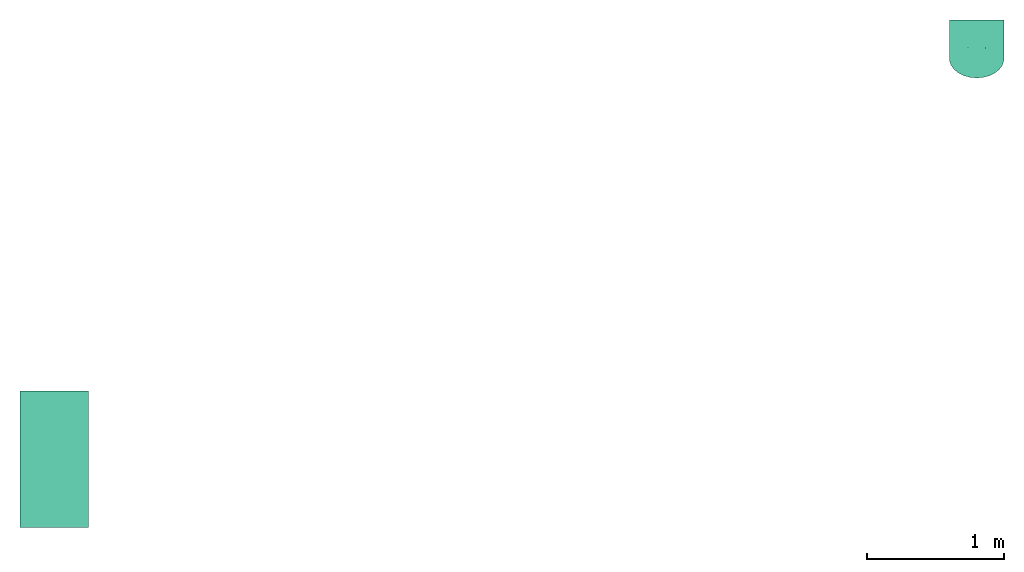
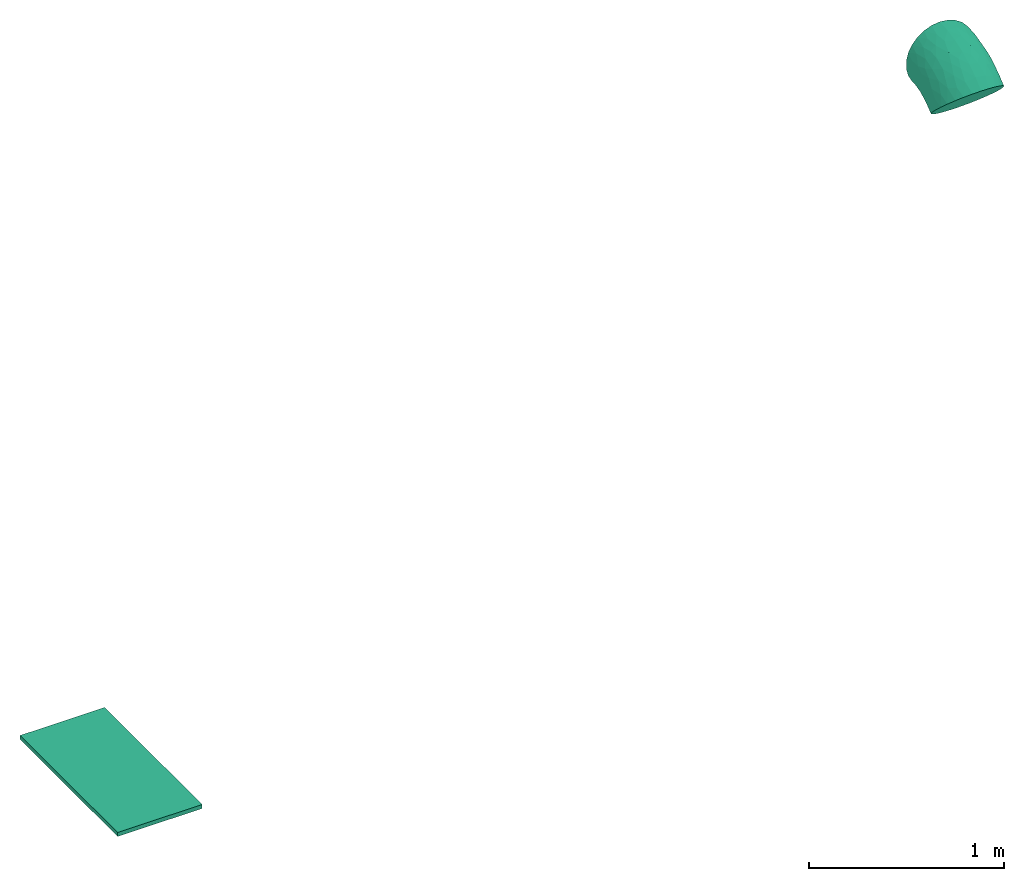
# One storey: 2 flow fittings.
"""IFC2X3 building model written with IfcOpenShell, lengths in millimetres."""

from ifc_helpers import new_model, entity, si_unit, converted_unit, derived_unit, direction, frame, origin_with_axes, place, context, subcontext, project, spatial, open_shell, surface_model, source, transform, mapped, type_object, element, save


model = new_model("IFC2X3")

# Units and contexts
model_context = context("Model", 3, precision=0.01, world=frame((0.0, 4.29681676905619e-09, 0.0)), true_north=direction((4.01073788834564e-13, 1.0)))
plan_context = context("Plan", 3, precision=0.01, world=frame((0.0, 4.29681676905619e-09, 0.0)), true_north=direction((4.01073788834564e-13, 1.0)))
body_context = subcontext(model_context, "Body", "Model", "MODEL_VIEW")
ifc_project = project(units=[converted_unit("PLANEANGLEUNIT", "DEGREE", entity("IfcPositiveLengthMeasure", 0.0174532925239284), si_unit("PLANEANGLEUNIT", "RADIAN"), dimensions=[0, 0, 0, 0, 0, 0, 0]), si_unit("AREAUNIT", "SQUARE_METRE"), si_unit("LENGTHUNIT", "METRE", prefix="MILLI"), si_unit("MASSUNIT", "GRAM", prefix="KILO"), si_unit("POWERUNIT", "WATT"), si_unit("PRESSUREUNIT", "PASCAL", prefix="KILO"), si_unit("FORCEUNIT", "NEWTON", prefix="KILO"), si_unit("ELECTRICVOLTAGEUNIT", "VOLT"), si_unit("ELECTRICCURRENTUNIT", "AMPERE"), si_unit("THERMODYNAMICTEMPERATUREUNIT", "DEGREE_CELSIUS"), si_unit("TIMEUNIT", "SECOND"), si_unit("VOLUMEUNIT", "CUBIC_METRE"), derived_unit("LINEARVELOCITYUNIT", [(si_unit("LENGTHUNIT", "METRE"), 1), (si_unit("TIMEUNIT", "SECOND"), -1)]), derived_unit("VOLUMETRICFLOWRATEUNIT", [(si_unit("VOLUMEUNIT", "CUBIC_METRE"), 1), (si_unit("TIMEUNIT", "SECOND"), -1)]), derived_unit("THERMALTRANSMITTANCEUNIT", [(si_unit("POWERUNIT", "WATT"), 1), (si_unit("THERMODYNAMICTEMPERATUREUNIT", "KELVIN"), -1), (si_unit("AREAUNIT", "SQUARE_METRE"), -1)]), derived_unit("SOUNDPRESSUREUNIT", [(si_unit("PRESSUREUNIT", "PASCAL"), 1)])], contexts=[model_context, plan_context])

# Site, building, storey
site_placement = place(None, frame((0.0, -4.29681676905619e-09, 0.0), z_axis=(0.0, 0.0, 1.0), x_axis=(1.0, 0.0, 0.0)))
site = spatial("IfcSite", under=ifc_project, at=site_placement, CompositionType="ELEMENT")
building_placement = place(site_placement, frame((0.0, 4.29681676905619e-09, 0.0), z_axis=(0.0, 0.0, 1.0), x_axis=(1.0, 0.0, 0.0)))
building = spatial("IfcBuilding", under=site, at=building_placement, Name="mc-building", CompositionType="ELEMENT")
storey_placement = place(building_placement, frame((0.0, 0.0, 200300.0), z_axis=(0.0, 0.0, 1.0), x_axis=(1.0, 0.0, 0.0)))
storey = spatial("IfcBuildingStorey", under=building, at=storey_placement, Name="Nivå C", CompositionType="ELEMENT", Elevation=200300.0)

# Flow fittings
duct_fitting_type_1 = type_object("IfcDuctFittingType", Name="magicirc_elbow_full_radius_001", PredefinedType="BEND")
shared_shape_1 = source(origin_with_axes(), body_context, "Body", "SurfaceModel", [
    surface_model("IfcShellBasedSurfaceModel", [(-165.68542, 113.61295, -164.59677), (-165.68542, 70.92098, -187.00325), (-165.68542, 24.10734, -198.54177), (-165.68542, -70.92098, -187.00325), (-165.68542, 194.18836, -47.86313), (-165.68542, 177.09121, -92.94464), (-165.68542, 149.70215, -132.62454), (-165.68542, -113.61295, 164.59677), (-165.68542, -113.61295, -164.59677), (-165.68542, -177.09121, -92.94464), (-165.68542, -24.10734, -198.54177), (-165.68542, -149.70215, -132.62454), (-165.68542, -194.18836, -47.86313), (-165.68542, -200.0, 0.0), (-165.68542, -149.70215, 132.62454), (-165.68542, 200.0, 0.0), (-165.68542, 177.09121, 92.94464), (-165.68542, 194.18836, 47.86313), (-165.68542, 149.70215, 132.62454), (-165.68542, 70.92098, 187.00325), (-165.68542, 113.61295, 164.59677), (-165.68542, -177.09121, 92.94464), (-165.68542, -194.18836, 47.86313), (-165.68542, -70.92098, 187.00325), (-165.68542, -24.10734, 198.54177), (-165.68542, 24.10734, 198.54177), (100.11082, 134.20375, -198.54177), (67.00858, 167.30599, -187.00325), (36.8208, 197.49378, -164.59677), (167.30599, 67.00858, -187.00325), (11.30188, 223.0127, -132.62454), (-8.0651, 242.37968, -92.94464), (-20.15462, 254.46919, -47.86313), (-8.0651, 242.37968, 92.94464), (242.37968, -8.0651, -92.94464), (197.49378, 36.8208, -164.59677), (134.20375, 100.11082, -198.54177), (223.0127, 11.30188, -132.62454), (254.46919, -20.15462, -47.86313), (242.37968, -8.0651, 92.94464), (258.57864, -24.26407, 0.0), (-24.26407, 258.57864, 0.0), (-20.15462, 254.46919, 47.86313), (223.0127, 11.30188, 132.62454), (11.30188, 223.0127, 132.62454), (36.8208, 197.49378, 164.59677), (67.00858, 167.30599, 187.00325), (100.11082, 134.20375, 198.54177), (254.46919, -20.15462, 47.86313), (134.20375, 100.11082, 198.54177), (167.30599, 67.00858, 187.00325), (197.49378, 36.8208, 164.59677), (33.5951, -8.17504, 192.50907), (0.19329, -51.34397, 182.92492), (53.32938, -39.39884, 178.12023), (-87.36971, -194.86692, 0.0), (-95.07916, -186.55782, 59.9864), (-133.15432, 187.058, 76.9901), (159.69915, -32.76236, 141.40169), (-108.2847, -166.74277, 105.93172), (145.37354, 7.15565, 172.57517), (98.37911, -47.84644, 160.07459), (-89.75787, -136.09083, 141.4017), (-107.85443, -97.73481, 172.57517), (-117.17033, -53.00499, 192.11752), (-101.39546, -5.94025, 199.69729), (-32.21677, -178.75057, 48.85515), (-39.84524, -161.35345, 96.30669), (199.14742, -64.68518, 59.9864), (142.26896, -85.91929, 96.30668), (137.6649, -110.26778, 50.08053), (37.51546, -153.14915, 64.56539), (-10.394, -179.5555, 0.0), (63.92464, -154.32772, 0.0), (-41.71192, 191.42027, 123.44362), (-95.05087, 88.85789, 182.88945), (-61.57477, 65.18001, 193.81148), (-19.85523, 102.9479, 187.6902), (-117.58718, 129.60499, 155.83571), (-115.06535, 42.56497, 196.16097), (82.3246, 74.26121, 199.77861), (37.75068, 97.67746, 196.80556), (-37.82956, -133.67818, 133.65816), (-35.73203, -103.3971, 160.07459), (-102.05423, 201.35871, 57.96479), (-89.14874, 215.22409, 0.0), (-126.66736, 203.84294, 0.0), (-53.21588, 229.61262, 40.57892), (-48.7822, 217.76558, 79.56578), (-52.04405, 140.31124, 162.54131), (-102.46299, 165.28749, 123.99824), (19.33704, 144.46206, 181.26719), (91.55101, -123.45046, 80.1402), (81.27475, -98.83963, 124.37409), (12.58301, -127.77353, 123.81319), (-12.49065, -6.74857, 196.97711), (-59.67512, -52.40539, 189.25934), (120.33211, 45.37174, 192.11752), (199.57143, -76.012, 0.0), (33.48391, -80.83735, 159.65804), (124.81763, -70.22241, 129.13605), (194.47379, -41.33611, 105.93172), (32.39696, 44.29854, 199.87263), (-54.57138, 233.70608, 0.0), (-6.26288, 176.9572, 155.44858), (-96.33125, 187.68238, 93.79544), (-65.94113, 26.32576, 199.56111), (-21.10862, 50.96071, 198.76379), (79.25288, 5.14047, 189.25934), (91.40569, -138.29449, 37.05498), (134.31458, -119.61525, 0.0), (-115.82345, 88.47675, -181.26719), (-95.76217, 42.37463, -196.80556), (-32.21676, -178.75057, -48.85515), (37.51547, -153.14915, -64.56539), (-110.72289, -5.70169, -199.77861), (-38.53173, -137.87491, -129.16137), (-35.73201, -103.3971, -160.07457), (12.58302, -127.77352, -123.81319), (-39.84523, -161.35345, -96.30669), (137.66491, -110.26777, -50.08053), (145.37354, 7.15564, -172.57517), (98.37913, -47.84644, -160.07457), (79.25288, 5.14045, -189.25934), (-102.05424, 201.35871, -57.96478), (-120.52198, 183.78584, -88.97354), (-80.30727, 190.34501, -99.26528), (-49.46916, 217.24337, -79.72777), (-44.42364, 189.3282, -123.99824), (-58.75541, 86.83492, -187.6902), (51.26553, 111.46146, -196.16097), (75.89781, 67.49701, -199.69729), (-8.49788, 174.79126, -155.83571), (-120.69911, 129.55616, -155.44858), (-95.07916, -186.55782, -59.9864), (-62.41434, 136.01573, -162.54131), (-105.85979, 164.84935, -123.44361), (194.47378, -41.33611, -105.93172), (142.26895, -85.91929, -96.30669), (159.69914, -32.76236, -141.4017), (-108.28469, -166.74277, -105.93172), (-89.75786, -136.09083, -141.40169), (-107.85442, -97.73481, -172.57517), (13.60417, 4.06024, -196.97711), (-17.97471, -29.53598, -192.50905), (-54.23193, 8.41567, -199.87263), (-117.17032, -53.00499, -192.11752), (4.37908, 130.04313, -182.88945), (-2.54931, 89.62915, -193.8115), (-65.81808, 221.76181, -41.29403), (33.48393, -80.83736, -159.65804), (81.27478, -98.83962, -124.37409), (199.14742, -64.68518, -59.9864), (120.33212, 45.37174, -192.11752), (91.4057, -138.29449, -37.05497), (91.55103, -123.45045, -80.1402), (36.16898, -36.44237, -182.92492), (-9.85039, -65.56877, -178.12021), (28.01229, 65.24252, -199.56111), (-21.10863, 50.96069, -198.76379), (-59.67511, -52.4054, -189.25934), (121.32133, -67.64615, -133.75315)], [open_shell([[[0, 1, 2]], [[0, 2, 3]], [[4, 5, 6]], [[0, 3, 7]], [[7, 6, 0]], [[8, 9, 3]], [[2, 10, 3]], [[9, 8, 11]], [[9, 12, 13]], [[13, 14, 9]], [[7, 3, 9]], [[15, 4, 6]], [[16, 17, 15]], [[18, 16, 15]], [[19, 20, 18]], [[7, 18, 6]], [[19, 18, 7]], [[13, 21, 14]], [[21, 13, 22]], [[23, 24, 25]], [[25, 7, 23]], [[7, 9, 14]], [[25, 19, 7]], [[18, 15, 6]], [[26, 27, 28]], [[29, 26, 28]], [[30, 31, 32]], [[29, 28, 33]], [[33, 28, 30]], [[29, 34, 35]], [[29, 36, 26]], [[37, 35, 34]], [[33, 34, 29]], [[38, 34, 39]], [[39, 40, 38]], [[32, 41, 30]], [[41, 42, 33]], [[33, 43, 34]], [[44, 45, 46]], [[33, 44, 47]], [[46, 47, 44]], [[43, 39, 34]], [[48, 40, 39]], [[47, 49, 50]], [[50, 51, 47]], [[51, 43, 33]], [[51, 33, 47]], [[30, 41, 33]], [[52, 53, 54]], [[22, 55, 56]], [[16, 57, 17]], [[56, 21, 22]], [[22, 13, 55]], [[58, 43, 51]], [[14, 21, 59]], [[58, 60, 61]], [[56, 59, 21]], [[62, 7, 14]], [[63, 7, 62]], [[24, 64, 65]], [[24, 23, 64]], [[56, 66, 67]], [[68, 69, 70]], [[71, 72, 73]], [[74, 44, 33]], [[19, 75, 20]], [[75, 76, 77]], [[78, 18, 20]], [[25, 79, 19]], [[80, 47, 81]], [[82, 83, 62]], [[84, 85, 86]], [[59, 67, 62]], [[86, 15, 17]], [[86, 17, 84]], [[7, 63, 23]], [[87, 84, 88]], [[66, 55, 72]], [[89, 90, 78]], [[46, 45, 91]], [[92, 93, 94]], [[95, 65, 96]], [[79, 25, 65]], [[17, 57, 84]], [[50, 49, 97]], [[68, 70, 98]], [[48, 68, 98]], [[80, 49, 47]], [[99, 83, 94]], [[39, 68, 48]], [[100, 61, 93]], [[68, 101, 69]], [[101, 68, 39]], [[63, 83, 96]], [[69, 93, 92]], [[98, 40, 48]], [[90, 89, 74]], [[16, 18, 90]], [[60, 51, 50]], [[85, 84, 87]], [[81, 102, 80]], [[103, 87, 41]], [[39, 43, 101]], [[88, 74, 33]], [[18, 78, 90]], [[104, 91, 45]], [[88, 105, 74]], [[91, 77, 81]], [[24, 65, 25]], [[104, 89, 91]], [[95, 52, 102]], [[46, 91, 81]], [[81, 47, 46]], [[33, 42, 88]], [[20, 75, 78]], [[51, 60, 58]], [[89, 78, 75]], [[76, 79, 106]], [[45, 44, 104]], [[77, 76, 107]], [[102, 81, 107]], [[97, 80, 108]], [[87, 88, 42]], [[105, 84, 57]], [[83, 63, 62]], [[64, 63, 96]], [[82, 67, 94]], [[83, 99, 53]], [[97, 60, 50]], [[108, 54, 61]], [[108, 61, 60]], [[99, 94, 93]], [[67, 59, 56]], [[62, 14, 59]], [[43, 58, 101]], [[69, 101, 58]], [[71, 94, 67]], [[99, 93, 61]], [[71, 67, 66]], [[70, 109, 110]], [[106, 79, 65]], [[75, 19, 79]], [[92, 94, 71]], [[100, 93, 69]], [[44, 74, 104]], [[89, 104, 74]], [[95, 102, 107]], [[108, 80, 102]], [[95, 107, 106]], [[95, 96, 53]], [[80, 97, 49]], [[60, 97, 108]], [[63, 64, 23]], [[65, 64, 96]], [[95, 106, 65]], [[76, 106, 107]], [[81, 77, 107]], [[79, 76, 75]], [[91, 89, 77]], [[75, 77, 89]], [[109, 71, 73]], [[70, 69, 92]], [[109, 70, 92]], [[70, 110, 98]], [[71, 109, 92]], [[110, 109, 73]], [[83, 53, 96]], [[54, 53, 99]], [[61, 54, 99]], [[52, 54, 108]], [[102, 52, 108]], [[53, 52, 95]], [[16, 90, 57]], [[105, 57, 90]], [[74, 105, 90]], [[88, 84, 105]], [[41, 87, 42]], [[87, 103, 85]], [[55, 66, 56]], [[71, 66, 72]], [[67, 82, 62]], [[94, 83, 82]], [[69, 58, 100]], [[61, 100, 58]], [[111, 112, 1]], [[113, 114, 72]], [[115, 10, 2]], [[116, 117, 118]], [[1, 112, 2]], [[118, 119, 116]], [[15, 86, 4]], [[120, 98, 110]], [[121, 122, 123]], [[4, 124, 125]], [[4, 86, 124]], [[126, 127, 128]], [[112, 111, 129]], [[130, 26, 131]], [[30, 132, 128]], [[111, 0, 133]], [[9, 134, 12]], [[128, 135, 136]], [[55, 13, 12]], [[137, 138, 139]], [[134, 9, 140]], [[35, 121, 29]], [[141, 8, 142]], [[143, 144, 145]], [[142, 8, 3]], [[134, 55, 12]], [[134, 113, 55]], [[9, 11, 140]], [[146, 3, 10]], [[134, 140, 119]], [[31, 127, 32]], [[147, 148, 129]], [[86, 85, 124]], [[135, 132, 147]], [[127, 149, 32]], [[126, 125, 124]], [[32, 149, 41]], [[133, 135, 111]], [[118, 150, 151]], [[128, 31, 30]], [[27, 147, 28]], [[6, 5, 136]], [[152, 137, 34]], [[36, 153, 131]], [[130, 27, 26]], [[132, 135, 128]], [[141, 11, 8]], [[28, 132, 30]], [[115, 2, 112]], [[153, 36, 29]], [[37, 139, 35]], [[154, 114, 155]], [[1, 0, 111]], [[152, 98, 120]], [[137, 37, 34]], [[121, 35, 139]], [[152, 34, 38]], [[36, 131, 26]], [[40, 98, 38]], [[141, 142, 117]], [[113, 134, 119]], [[152, 38, 98]], [[112, 145, 115]], [[118, 114, 119]], [[127, 31, 128]], [[144, 156, 157]], [[148, 130, 158]], [[149, 85, 103]], [[28, 147, 132]], [[143, 131, 123]], [[126, 128, 136]], [[149, 127, 124]], [[0, 6, 133]], [[129, 148, 159]], [[145, 112, 159]], [[146, 115, 160]], [[146, 142, 3]], [[160, 157, 117]], [[160, 117, 142]], [[117, 150, 118]], [[122, 121, 139]], [[153, 121, 123]], [[161, 138, 151]], [[122, 150, 156]], [[11, 141, 140]], [[119, 140, 141]], [[138, 137, 152]], [[139, 37, 137]], [[151, 150, 122]], [[114, 118, 155]], [[118, 151, 155]], [[72, 114, 73]], [[158, 130, 131]], [[147, 27, 130]], [[139, 161, 122]], [[151, 138, 155]], [[6, 136, 133]], [[135, 133, 136]], [[143, 145, 159]], [[160, 115, 145]], [[143, 159, 158]], [[143, 123, 156]], [[115, 146, 10]], [[142, 146, 160]], [[121, 153, 29]], [[131, 153, 123]], [[143, 158, 131]], [[148, 158, 159]], [[112, 129, 159]], [[130, 148, 147]], [[111, 135, 129]], [[147, 129, 135]], [[138, 120, 155]], [[155, 120, 154]], [[152, 120, 138]], [[154, 110, 73]], [[110, 154, 120]], [[114, 154, 73]], [[125, 126, 136]], [[124, 127, 126]], [[136, 5, 125]], [[4, 125, 5]], [[122, 156, 123]], [[157, 156, 150]], [[117, 157, 150]], [[144, 157, 160]], [[145, 144, 160]], [[156, 144, 143]], [[114, 113, 119]], [[55, 113, 72]], [[85, 149, 124]], [[149, 103, 41]], [[119, 141, 116]], [[117, 116, 141]], [[138, 161, 139]], [[151, 122, 161]]])]),
])
flow_fitting_1_placement = place(storey_placement, frame((332833.11956, 464932.14997, 9075.67687), z_axis=(1.0, 0.0, 0.0), x_axis=(0.0, -1.0, 0.0)))
element("IfcFlowFitting", 1, at=flow_fitting_1_placement, inside=storey, type_object=duct_fitting_type_1, Name="magicirc_elbow_full_radius_001", context=body_context, shape_type="MappedRepresentation", body=[
    mapped(shared_shape_1, transform((0.0, 0.0, 0.0), scale=1.0)),
])
duct_fitting_type_2 = type_object("IfcDuctFittingType", Name="magirect_plug1_001", PredefinedType="OBSTRUCTION")
shared_shape_2 = source(origin_with_axes(), body_context, "Body", "SurfaceModel", [
    surface_model("IfcShellBasedSurfaceModel", [(0.0, -250.0, 500.0), (0.0, 250.0, -500.0), (0.0, -250.0, -500.0), (0.0, 250.0, 500.0), (25.0, -250.0, -500.0), (25.0, 250.0, -500.0), (25.0, -250.0, 500.0), (25.0, 250.0, 500.0)], [open_shell([[[0, 1, 2]], [[1, 0, 3]], [[4, 5, 6]], [[7, 6, 5]], [[1, 3, 7]], [[7, 5, 1]], [[2, 1, 5]], [[5, 4, 2]], [[0, 2, 4]], [[4, 6, 0]], [[3, 0, 7]], [[6, 7, 0]]])]),
])
flow_fitting_2_placement = place(storey_placement, frame((326076.70475, 461881.33964, 8890.0), z_axis=(0.0, 1.0, 0.0), x_axis=(0.0, 0.0, 1.0)))
element("IfcFlowFitting", 2, at=flow_fitting_2_placement, inside=storey, type_object=duct_fitting_type_2, Name="magirect_plug1_001", context=body_context, shape_type="MappedRepresentation", body=[
    mapped(shared_shape_2, transform((0.0, 0.0, 0.0), scale=1.0)),
])

save(model, "model.ifc")
